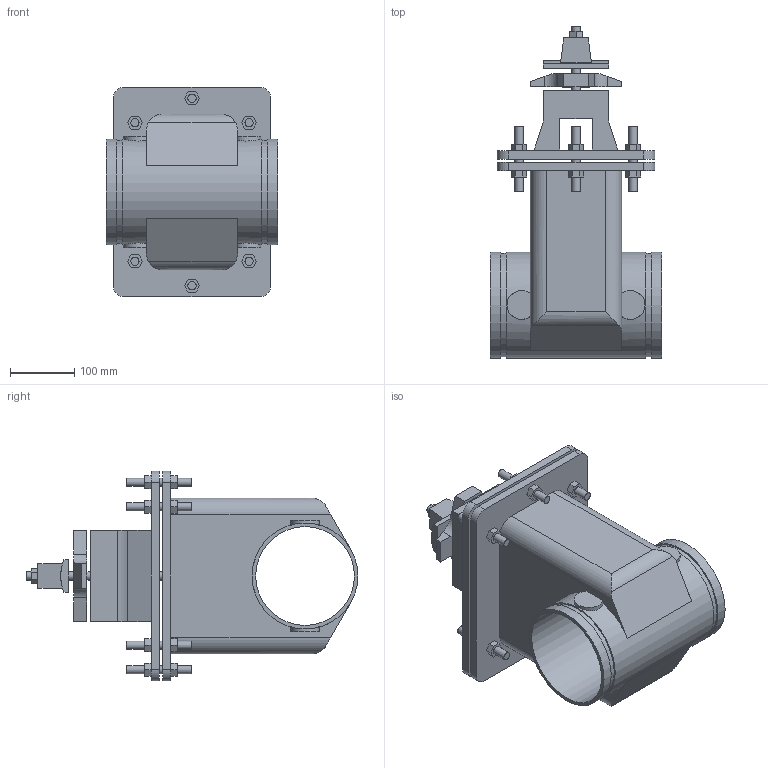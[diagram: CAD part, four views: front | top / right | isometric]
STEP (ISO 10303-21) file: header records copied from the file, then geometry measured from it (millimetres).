
FILE_DESCRIPTION(/* description */ ('VIC GATE VALVE SERIES 772H NRS','CAx-IF Rec.Pracs.---Representation and Presentation of Product Manufacturing Information (PMI)---4.0---2014-10-13'),/* implementation_level */ '2;1');
FILE_NAME(/* name */ 'C:\Users\Vjadhav\AppData\Roaming\Autodesk\ApplicationPlugins\Back Up\Victaulic_FP-FireLock_Valve Gate NRS_Series 772H (OGS)\Victaulic_FP-FireLock_Valve Gate NRS_Series 772H (OGS)_06.0 (165.1) (150).stp',/* time_stamp */ '2020-07-20T15:49:32+05:00',/* author */ ('kkamble'),/* organization */ ('Victaulic'),/* preprocessor_version */ 'ST-DEVELOPER v17.2',/* originating_system */ 'Autodesk Inventor 2019',/* authorisation */ '');
FILE_SCHEMA (('AP242_MANAGED_MODEL_BASED_3D_ENGINEERING_MIM_LF { 1 0 10303 442 1 1 4 }'));
Length unit declared in the file: inch
Products named in the file (1): 772H-06.0 (165.1)
Bounding box: 267 x 517.65 x 326.9 mm (x, y, z)
Volume: 10400585.3 mm3; surface area: 840678.6 mm2
Topology: 1 solids, 1 shells, 221 faces, 551 edges, 371 vertices
Faces by surface type: plane 168, cylinder 53
Full cylindrical faces by diameter (mm): 12.7 x22, 153.987 x1, 160.782 x2, 165.1 x3
Entity records: 7173 total; most frequent: CARTESIAN_POINT 1361, DIRECTION 1142, ORIENTED_EDGE 1102, EDGE_CURVE 551, LINE 422, VECTOR 422, VERTEX_POINT 371, AXIS2_PLACEMENT_3D 360
